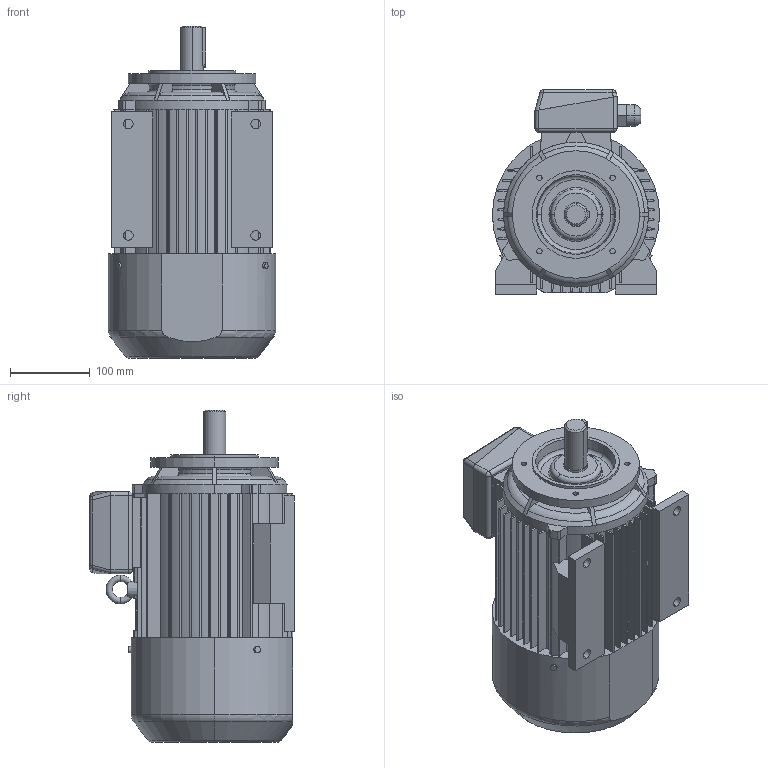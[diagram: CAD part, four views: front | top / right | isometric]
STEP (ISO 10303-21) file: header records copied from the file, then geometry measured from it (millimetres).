
FILE_DESCRIPTION (( 'STEP AP203' ), '1' );
FILE_NAME ('3SIEL100L4A,4B-B34-C2.STEP', '2016-02-08T12:16:14', ( 'Indukta' ), ( 'Celma Indukta S.A.' ), 'SwSTEP 2.0', 'SolidWorks 2003064', '' );
FILE_SCHEMA (( 'CONFIG_CONTROL_DESIGN' ));
Length unit declared in the file: millimetre
Products named in the file (1): 3SIEL100L4A,4B-B34-C2
Bounding box: 210 x 257 x 417 mm (x, y, z)
Volume: 11165848.1 mm3; surface area: 528201.1 mm2
Topology: 1 solids, 1 shells, 661 faces, 1792 edges, 1141 vertices
Faces by surface type: plane 335, cylinder 177, bspline 78, torus 43, cone 20, sphere 8
Entity records: 27650 total; most frequent: CARTESIAN_POINT 11265, ORIENTED_EDGE 3568, DIRECTION 3206, EDGE_CURVE 1784, VERTEX_POINT 1141, AXIS2_PLACEMENT_3D 1108, LINE 990, VECTOR 990
